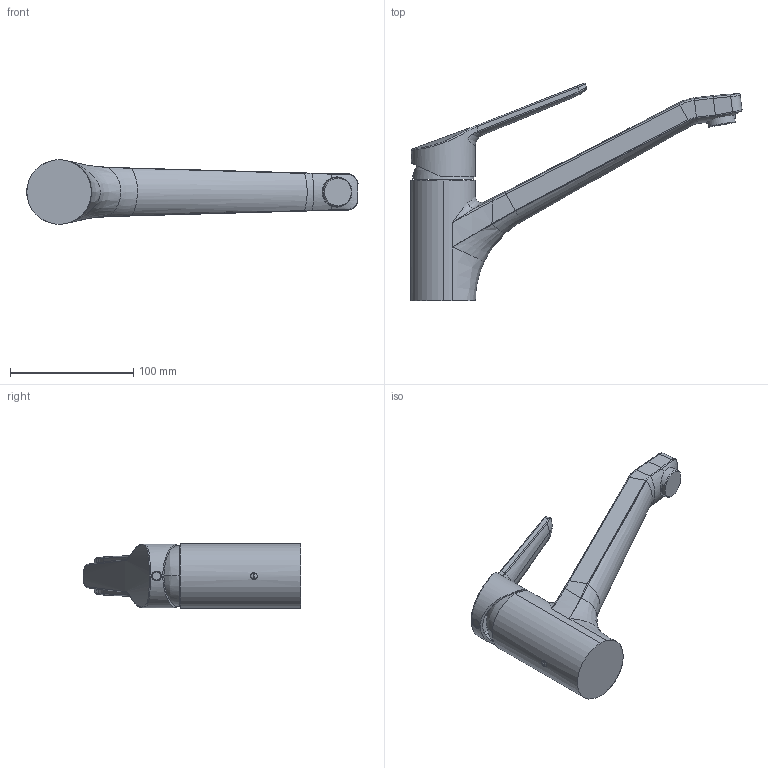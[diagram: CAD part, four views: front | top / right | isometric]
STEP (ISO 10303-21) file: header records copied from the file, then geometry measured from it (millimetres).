
FILE_DESCRIPTION((''),'2;1');
FILE_NAME('ASS_SW0001','2018-11-19T',('LF994'),(''),'CREO PARAMETRIC BY PTC INC, 2016260','CREO PARAMETRIC BY PTC INC, 2016260','');
FILE_SCHEMA(('CONFIG_CONTROL_DESIGN'));
Length unit declared in the file: millimetre
Products named in the file (1): ASS_SW0001
Bounding box: 269.64 x 176.64 x 52.5 mm (x, y, z)
Volume: 446815.9 mm3; surface area: 70386.8 mm2
Topology: 3 solids, 3 shells, 214 faces, 522 edges, 318 vertices
Faces by surface type: bspline 77, cylinder 60, plane 54, cone 16, torus 7
Entity records: 13253 total; most frequent: CARTESIAN_POINT 8883, ORIENTED_EDGE 1038, DIRECTION 687, EDGE_CURVE 519, VERTEX_POINT 318, AXIS2_PLACEMENT_3D 268, B_SPLINE_CURVE_WITH_KNOTS 237, EDGE_LOOP 225
